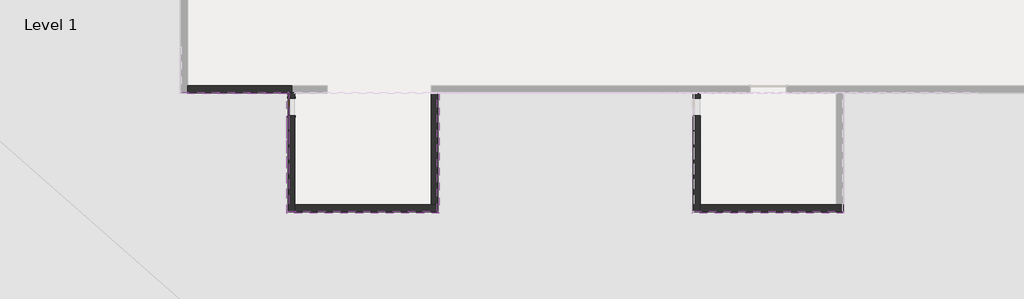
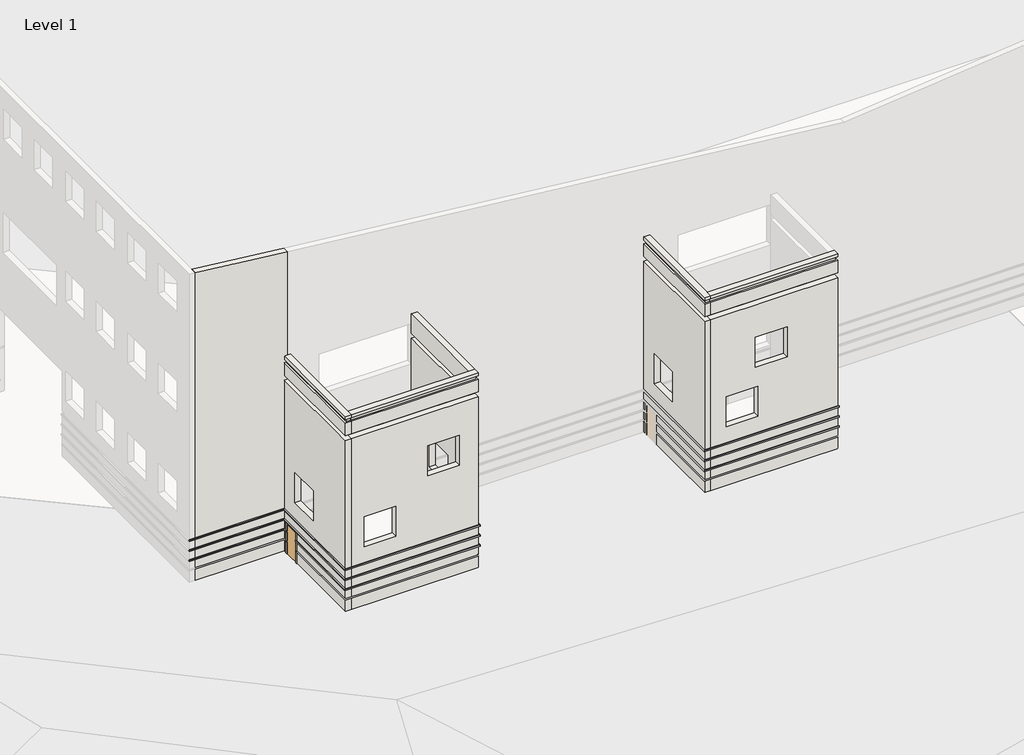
# One storey, part 1 of 6: 15 proxies, 6 walls, 1 door.
"""IFC4 building model written with IfcOpenShell, lengths in millimetres."""

from ifc_helpers import new_model, si_unit, frame, origin, place, context, project, spatial, polyline, outline, extrude, faceted_brep, transform, mapped, element, save
from components import door_632be17d

model = new_model("IFC4")

# Units and contexts
model_context = context("Model", 3, world=origin())
ifc_project = project(units=[si_unit("LENGTHUNIT", "METRE", prefix="MILLI")], contexts=[model_context])

# Site, building, storey
site = spatial("IfcSite", under=ifc_project)
building = spatial("IfcBuilding", under=site)
storey = spatial("IfcBuildingStorey", under=building, Name="Level 1", Elevation=0.0)

# Proxies
placement = place(None, origin())
element("IfcBuildingElementProxy", 1, Name="Reveals", at=placement, inside=storey, context=model_context, shape_type="SweptSolid", body=[
    extrude(outline(polyline([(-12709.8136573, -10625.3504393), (-12617.7386573, -10625.3504393), (-12617.7386573, -15500.5629393), (-12709.8136573, -15592.6379393), (-12709.8136573, -10625.3504393)])), frame((0.0, 0.0, 1625.6), z_axis=(0.0, 0.0, 1.0), x_axis=(1.0, 0.0, 0.0)), (0.0, 0.0, 1.0), 67.7333333),
    extrude(outline(polyline([(-12709.8136573, -9496.6379393), (-12617.7386573, -9404.5629393), (-12617.7386573, -9710.9504393), (-12709.8136573, -9710.9504393), (-12709.8136573, -9496.6379393)])), frame((0.0, 0.0, 1625.6), z_axis=(0.0, 0.0, 1.0), x_axis=(1.0, 0.0, 0.0)), (0.0, 0.0, 1.0), 67.7333333),
])
element("IfcBuildingElementProxy", 2, Name="Reveals", at=placement, inside=storey, context=model_context, shape_type="SweptSolid", body=[
    extrude(outline(polyline([(-12709.8136573, -9496.6379393), (-12617.7386573, -9404.5629393), (-12617.7386573, -15500.5629393), (-12709.8136573, -15592.6379393), (-12709.8136573, -9496.6379393)])), frame((0.0, 0.0, 2235.2), z_axis=(0.0, 0.0, 1.0), x_axis=(1.0, 0.0, 0.0)), (0.0, 0.0, 1.0), 67.7333333),
])
element("IfcBuildingElementProxy", 3, Name="Reveals", at=placement, inside=storey, context=model_context, shape_type="SweptSolid", body=[
    extrude(outline(polyline([(-12709.8136573, -9496.6379393), (-12617.7386573, -9404.5629393), (-12617.7386573, -15500.5629393), (-12709.8136573, -15592.6379393), (-12709.8136573, -9496.6379393)])), frame((0.0, 0.0, 2844.8), z_axis=(0.0, 0.0, 1.0), x_axis=(1.0, 0.0, 0.0)), (0.0, 0.0, 1.0), 67.7333333),
])
element("IfcBuildingElementProxy", 4, Name="Reveals", at=placement, inside=storey, context=model_context, shape_type="SweptSolid", body=[
    extrude(outline(polyline([(-12709.8136573, -15592.6379393), (-12617.7386573, -15500.5629393), (-5000.9136573, -15500.5629393), (-4908.8386573, -15592.6379393), (-12709.8136573, -15592.6379393)])), frame((0.0, 0.0, 1625.6), z_axis=(0.0, 0.0, 1.0), x_axis=(1.0, 0.0, 0.0)), (0.0, 0.0, 1.0), 67.7333333),
])
element("IfcBuildingElementProxy", 5, Name="Reveals", at=placement, inside=storey, context=model_context, shape_type="SweptSolid", body=[
    extrude(outline(polyline([(-12709.8136573, -15592.6379393), (-12617.7386573, -15500.5629393), (-5000.9136573, -15500.5629393), (-4908.8386573, -15592.6379393), (-12709.8136573, -15592.6379393)])), frame((0.0, 0.0, 2235.2), z_axis=(0.0, 0.0, 1.0), x_axis=(1.0, 0.0, 0.0)), (0.0, 0.0, 1.0), 67.7333333),
])
element("IfcBuildingElementProxy", 6, Name="Reveals", at=placement, inside=storey, context=model_context, shape_type="SweptSolid", body=[
    extrude(outline(polyline([(-12709.8136573, -15592.6379393), (-12617.7386573, -15500.5629393), (-5000.9136573, -15500.5629393), (-4908.8386573, -15592.6379393), (-12709.8136573, -15592.6379393)])), frame((0.0, 0.0, 2844.8), z_axis=(0.0, 0.0, 1.0), x_axis=(1.0, 0.0, 0.0)), (0.0, 0.0, 1.0), 67.7333333),
])
element("IfcBuildingElementProxy", 7, Name="Reveals", at=placement, inside=storey, context=model_context, shape_type="SweptSolid", body=[
    extrude(outline(polyline([(-4908.8386573, -15592.6379393), (-5000.9136573, -15500.5629393), (-5000.9136573, -9429.9629393), (-4908.8386573, -9429.9629393), (-4908.8386573, -15592.6379393)])), frame((0.0, 0.0, 1625.6), z_axis=(0.0, 0.0, 1.0), x_axis=(1.0, 0.0, 0.0)), (0.0, 0.0, 1.0), 67.7333333),
])
element("IfcBuildingElementProxy", 8, Name="Reveals", at=placement, inside=storey, context=model_context, shape_type="SweptSolid", body=[
    extrude(outline(polyline([(-4908.8386573, -15592.6379393), (-5000.9136573, -15500.5629393), (-5000.9136573, -9429.9629393), (-4908.8386573, -9429.9629393), (-4908.8386573, -15592.6379393)])), frame((0.0, 0.0, 2235.2), z_axis=(0.0, 0.0, 1.0), x_axis=(1.0, 0.0, 0.0)), (0.0, 0.0, 1.0), 67.7333333),
])
element("IfcBuildingElementProxy", 9, Name="Reveals", at=placement, inside=storey, context=model_context, shape_type="SweptSolid", body=[
    extrude(outline(polyline([(-4908.8386573, -15592.6379393), (-5000.9136573, -15500.5629393), (-5000.9136573, -9429.9629393), (-4908.8386573, -9429.9629393), (-4908.8386573, -15592.6379393)])), frame((0.0, 0.0, 2844.8), z_axis=(0.0, 0.0, 1.0), x_axis=(1.0, 0.0, 0.0)), (0.0, 0.0, 1.0), 67.7333333),
])
element("IfcBuildingElementProxy", 10, Name="Reveals", at=placement, inside=storey, context=model_context, shape_type="SweptSolid", body=[
    extrude(outline(polyline([(8016.5863427, -15592.6379393), (8108.6613427, -15500.5629393), (15725.4863427, -15500.5629393), (15817.5613427, -15592.6379393), (8016.5863427, -15592.6379393)])), frame((0.0, 0.0, 1625.6), z_axis=(0.0, 0.0, 1.0), x_axis=(1.0, 0.0, 0.0)), (0.0, 0.0, 1.0), 67.7333333),
])
element("IfcBuildingElementProxy", 11, Name="Reveals", at=placement, inside=storey, context=model_context, shape_type="SweptSolid", body=[
    extrude(outline(polyline([(8016.5863427, -15592.6379393), (8108.6613427, -15500.5629393), (15725.4863427, -15500.5629393), (15817.5613427, -15592.6379393), (8016.5863427, -15592.6379393)])), frame((0.0, 0.0, 2235.2), z_axis=(0.0, 0.0, 1.0), x_axis=(1.0, 0.0, 0.0)), (0.0, 0.0, 1.0), 67.7333333),
])
element("IfcBuildingElementProxy", 12, Name="Reveals", at=placement, inside=storey, context=model_context, shape_type="SweptSolid", body=[
    extrude(outline(polyline([(8016.5863427, -15592.6379393), (8108.6613427, -15500.5629393), (15725.4863427, -15500.5629393), (15817.5613427, -15592.6379393), (8016.5863427, -15592.6379393)])), frame((0.0, 0.0, 2844.8), z_axis=(0.0, 0.0, 1.0), x_axis=(1.0, 0.0, 0.0)), (0.0, 0.0, 1.0), 67.7333333),
])
element("IfcBuildingElementProxy", 13, Name="Reveals", at=placement, inside=storey, context=model_context, shape_type="SweptSolid", body=[
    extrude(outline(polyline([(-12617.7386573, -9404.5629393), (-12709.8136573, -9496.6379393), (-18196.2136573, -9496.6379393), (-18104.1386573, -9404.5629393), (-12617.7386573, -9404.5629393)])), frame((0.0, 0.0, 1625.6), z_axis=(0.0, 0.0, 1.0), x_axis=(1.0, 0.0, 0.0)), (0.0, 0.0, 1.0), 67.7333333),
])
element("IfcBuildingElementProxy", 14, Name="Reveals", at=placement, inside=storey, context=model_context, shape_type="SweptSolid", body=[
    extrude(outline(polyline([(-12617.7386573, -9404.5629393), (-12709.8136573, -9496.6379393), (-18196.2136573, -9496.6379393), (-18104.1386573, -9404.5629393), (-12617.7386573, -9404.5629393)])), frame((0.0, 0.0, 2235.2), z_axis=(0.0, 0.0, 1.0), x_axis=(1.0, 0.0, 0.0)), (0.0, 0.0, 1.0), 67.7333333),
])
element("IfcBuildingElementProxy", 15, Name="Reveals", at=placement, inside=storey, context=model_context, shape_type="SweptSolid", body=[
    extrude(outline(polyline([(-12617.7386573, -9404.5629393), (-12709.8136573, -9496.6379393), (-18196.2136573, -9496.6379393), (-18104.1386573, -9404.5629393), (-12617.7386573, -9404.5629393)])), frame((0.0, 0.0, 2844.8), z_axis=(0.0, 0.0, 1.0), x_axis=(1.0, 0.0, 0.0)), (0.0, 0.0, 1.0), 67.7333333),
])

# Door
door_shape = door_632be17d(model_context)
element("IfcDoor", 16, ObjectType="Single-Flush : 36\" x 84\"", at=placement, inside=storey, context=model_context, shape_type="MappedRepresentation", body=[
    mapped(door_shape, transform((-12466.9261573, -10168.1504393, 0.0), x_axis=(0.0, 1.0, 0.0), y_axis=(-1.0, 0.0, 0.0), z_axis=(0.0, 0.0, 1.0))),
])

# Walls
element("IfcWall", 17, ObjectType="Exterior - Brick and CMU on MTL. Stud", at=placement, inside=storey, context=model_context, shape_type="Brep", body=[
    faceted_brep([(-12643.1386573, -15525.9629393, 12192.0), (-12643.1386573, -9429.9629393, 12192.0), (-12643.1386573, -9429.9629393, 11988.8), (-12643.1386573, -15525.9629393, 11988.8), (-12643.1386573, -15525.9629393, 11785.6), (-12643.1386573, -9429.9629393, 11785.6), (-12643.1386573, -9429.9629393, 11017.5344776), (-12643.1386573, -15525.9629393, 11017.5344776), (-12290.7136573, -9429.9629393, 12192.0), (-12290.7136573, -15173.5379393, 12192.0), (-12290.7136573, -15525.9629393, 12192.0), (-12290.7136573, -15525.9629393, 11988.8), (-12290.7136573, -15433.8879393, 11988.8), (-12290.7136573, -15433.8879393, 11785.6), (-12290.7136573, -15525.9629393, 11785.6), (-12290.7136573, -15525.9629393, 11017.5344776), (-12290.7136573, -15173.5379393, 11017.5344776), (-12290.7136573, -9429.9629393, 11017.5344776), (-12551.0636573, -9429.9629393, 11785.6), (-12551.0636573, -9429.9629393, 11988.8), (-12551.0636573, -15433.8879393, 11988.8), (-12551.0636573, -15433.8879393, 11785.6)], [[[0, 1, 2, 3]], [[4, 5, 6, 7]], [[8, 9, 10, 11, 12, 13, 14, 15, 16, 17]], [[1, 0, 10, 9, 8]], [[10, 0, 3, 11]], [[14, 4, 7, 15]], [[1, 8, 17, 6, 5, 18, 19, 2]], [[19, 20, 12, 11, 3, 2]], [[20, 19, 18, 21]], [[21, 18, 5, 4, 14, 13]], [[20, 21, 13, 12]], [[7, 6, 17, 16, 15]]]),
    faceted_brep([(-12643.1386573, -9429.9629393, 0.0), (-12643.1386573, -9710.9504393, 0.0), (-12643.1386573, -9710.9504393, 1016.0), (-12643.1386573, -9429.9629393, 1016.0), (-12643.1386573, -10625.3504393, 0.0), (-12643.1386573, -15525.9629393, 0.0), (-12643.1386573, -15525.9629393, 1016.0), (-12643.1386573, -10625.3504393, 1016.0), (-12643.1386573, -9710.9504393, 2133.6), (-12643.1386573, -10625.3504393, 2133.6), (-12643.1386573, -10625.3504393, 1693.3333333), (-12643.1386573, -15525.9629393, 1693.3333333), (-12643.1386573, -15525.9629393, 2235.2), (-12643.1386573, -9429.9629393, 2235.2), (-12643.1386573, -9429.9629393, 1693.3333333), (-12643.1386573, -9710.9504393, 1693.3333333), (-12643.1386573, -10625.3504393, 1085.85), (-12643.1386573, -15525.9629393, 1085.85), (-12643.1386573, -15525.9629393, 1625.6), (-12643.1386573, -10625.3504393, 1625.6), (-12643.1386573, -9429.9629393, 1085.85), (-12643.1386573, -9710.9504393, 1085.85), (-12643.1386573, -9710.9504393, 1625.6), (-12643.1386573, -9429.9629393, 1625.6), (-12643.1386573, -15525.9629393, 2844.8), (-12643.1386573, -9429.9629393, 2844.8), (-12643.1386573, -9429.9629393, 2302.9333333), (-12643.1386573, -15525.9629393, 2302.9333333), (-12643.1386573, -9429.9629393, 2912.5333333), (-12643.1386573, -15525.9629393, 2912.5333333), (-12643.1386573, -15525.9629393, 10712.7344776), (-12643.1386573, -9429.9629393, 10712.7344776), (-12643.1386573, -10472.9504393, 3875.2335849), (-12643.1386573, -10472.9504393, 5704.0335849), (-12643.1386573, -12301.7504393, 5704.0335849), (-12643.1386573, -12301.7504393, 3875.2335849), (-12290.7136573, -9710.9504393, 0.0), (-12290.7136573, -9429.9629393, 0.0), (-12290.7136573, -9429.9629393, 304.8), (-12290.7136573, -9429.9629393, 1016.0), (-12290.7136573, -9429.9629393, 1085.85), (-12290.7136573, -9429.9629393, 1625.6), (-12290.7136573, -9429.9629393, 1693.3333333), (-12290.7136573, -9429.9629393, 2235.2), (-12290.7136573, -9429.9629393, 2302.9333333), (-12290.7136573, -9429.9629393, 2844.8), (-12290.7136573, -9429.9629393, 2912.5333333), (-12290.7136573, -9429.9629393, 10712.7344776), (-12290.7136573, -15173.5379393, 10712.7344776), (-12290.7136573, -15525.9629393, 10712.7344776), (-12290.7136573, -15525.9629393, 2912.5333333), (-12290.7136573, -15500.5629393, 2912.5333333), (-12290.7136573, -15500.5629393, 2844.8), (-12290.7136573, -15525.9629393, 2844.8), (-12290.7136573, -15525.9629393, 2302.9333333), (-12290.7136573, -15500.5629393, 2302.9333333), (-12290.7136573, -15500.5629393, 2235.2), (-12290.7136573, -15525.9629393, 2235.2), (-12290.7136573, -15525.9629393, 1693.3333333), (-12290.7136573, -15500.5629393, 1693.3333333), (-12290.7136573, -15500.5629393, 1625.6), (-12290.7136573, -15525.9629393, 1625.6), (-12290.7136573, -15525.9629393, 1085.85), (-12290.7136573, -15433.8879393, 1085.85), (-12290.7136573, -15433.8879393, 1016.0), (-12290.7136573, -15525.9629393, 1016.0), (-12290.7136573, -15525.9629393, 0.0), (-12290.7136573, -15173.5379393, 0.0), (-12290.7136573, -10625.3504393, 0.0), (-12290.7136573, -10625.3504393, 2133.6), (-12290.7136573, -9710.9504393, 2133.6), (-12290.7136573, -10472.9504393, 5704.0335849), (-12290.7136573, -10472.9504393, 3875.2335849), (-12290.7136573, -12301.7504393, 3875.2335849), (-12290.7136573, -12301.7504393, 5704.0335849), (-12551.0636573, -15525.9629393, 0.0), (-12551.0636573, -10625.3504393, 0.0), (-12551.0636573, -9429.9629393, 0.0), (-12466.9261573, -9429.9629393, 0.0), (-12551.0636573, -9710.9504393, 0.0), (-12551.0636573, -9429.9629393, 1016.0), (-12551.0636573, -9429.9629393, 1085.85), (-12617.7386573, -9429.9629393, 1625.6), (-12617.7386573, -9429.9629393, 1693.3333333), (-12617.7386573, -9429.9629393, 2235.2), (-12617.7386573, -9429.9629393, 2302.9333333), (-12617.7386573, -9429.9629393, 2844.8), (-12617.7386573, -9429.9629393, 2912.5333333), (-12617.7386573, -9710.9504393, 1693.3333333), (-12617.7386573, -9710.9504393, 1625.6), (-12551.0636573, -9710.9504393, 1085.85), (-12551.0636573, -9710.9504393, 1016.0), (-12551.0636573, -10625.3504393, 1016.0), (-12551.0636573, -10625.3504393, 1085.85), (-12617.7386573, -10625.3504393, 1625.6), (-12617.7386573, -10625.3504393, 1693.3333333), (-12551.0636573, -15433.8879393, 1085.85), (-12551.0636573, -15433.8879393, 1016.0), (-12617.7386573, -15500.5629393, 2844.8), (-12617.7386573, -15500.5629393, 2912.5333333), (-12617.7386573, -15500.5629393, 2235.2), (-12617.7386573, -15500.5629393, 2302.9333333), (-12617.7386573, -15500.5629393, 1693.3333333), (-12617.7386573, -15500.5629393, 1625.6)], [[[0, 1, 2, 3]], [[4, 5, 6, 7]], [[8, 9, 10, 11, 12, 13, 14, 15]], [[16, 17, 18, 19]], [[20, 21, 22, 23]], [[24, 25, 26, 27]], [[28, 29, 30, 31], [32, 33, 34, 35]], [[36, 37, 38, 39, 40, 41, 42, 43, 44, 45, 46, 47, 48, 49, 50, 51, 52, 53, 54, 55, 56, 57, 58, 59, 60, 61, 62, 63, 64, 65, 66, 67, 68, 69, 70], [71, 72, 73, 74]], [[66, 75, 76, 68, 67]], [[77, 78, 37, 36, 79]], [[0, 77, 79, 1]], [[75, 5, 4, 76]], [[75, 66, 65, 6, 5]], [[17, 62, 61, 18]], [[53, 24, 27, 54]], [[29, 50, 49, 30]], [[57, 12, 11, 58]], [[37, 78, 77, 0, 3, 80, 81, 20, 23, 82, 83, 14, 13, 84, 85, 26, 25, 86, 87, 28, 31, 47, 46, 45, 44, 43, 42, 41, 40, 39, 38]], [[70, 8, 15, 88, 89, 22, 21, 90, 91, 2, 1, 79, 36]], [[8, 70, 69, 9]], [[9, 69, 68, 76, 4, 7, 92, 93, 16, 19, 94, 95, 10]], [[72, 71, 33, 32]], [[73, 72, 32, 35]], [[74, 73, 35, 34]], [[71, 74, 34, 33]], [[96, 93, 92, 97]], [[97, 92, 7, 6, 65, 64]], [[93, 96, 63, 62, 17, 16]], [[96, 97, 64, 63]], [[91, 80, 3, 2]], [[81, 90, 21, 20]], [[90, 81, 80, 91]], [[52, 98, 86, 25, 24, 53]], [[87, 99, 51, 50, 29, 28]], [[98, 99, 87, 86]], [[99, 98, 52, 51]], [[56, 100, 84, 13, 12, 57]], [[85, 101, 55, 54, 27, 26]], [[100, 101, 85, 84]], [[101, 100, 56, 55]], [[102, 95, 94, 103]], [[103, 94, 19, 18, 61, 60]], [[95, 102, 59, 58, 11, 10]], [[102, 103, 60, 59]], [[89, 82, 23, 22]], [[83, 88, 15, 14]], [[88, 83, 82, 89]], [[31, 30, 49, 48, 47]]]),
])
element("IfcWall", 18, ObjectType="Exterior - Brick and CMU on MTL. Stud", at=placement, inside=storey, context=model_context, shape_type="Brep", body=[
    faceted_brep([(-4975.5136573, -15525.9629393, 12192.0), (-12290.7136573, -15525.9629393, 12192.0), (-12290.7136573, -15525.9629393, 11988.8), (-4975.5136573, -15525.9629393, 11988.8), (-4975.5136573, -15525.9629393, 11785.6), (-12290.7136573, -15525.9629393, 11785.6), (-12290.7136573, -15525.9629393, 11017.5344776), (-4975.5136573, -15525.9629393, 11017.5344776), (-12290.7136573, -15173.5379393, 12192.0), (-5327.9386573, -15173.5379393, 12192.0), (-4975.5136573, -15173.5379393, 12192.0), (-4975.5136573, -15173.5379393, 11988.8), (-5067.5886573, -15173.5379393, 11988.8), (-5067.5886573, -15173.5379393, 11785.6), (-4975.5136573, -15173.5379393, 11785.6), (-4975.5136573, -15173.5379393, 11017.5344776), (-5327.9386573, -15173.5379393, 11017.5344776), (-12290.7136573, -15173.5379393, 11017.5344776), (-12290.7136573, -15433.8879393, 11785.6), (-12290.7136573, -15433.8879393, 11988.8), (-5067.5886573, -15433.8879393, 11988.8), (-5067.5886573, -15433.8879393, 11785.6)], [[[0, 1, 2, 3]], [[4, 5, 6, 7]], [[8, 9, 10, 11, 12, 13, 14, 15, 16, 17]], [[1, 0, 10, 9, 8]], [[10, 0, 3, 11]], [[14, 4, 7, 15]], [[1, 8, 17, 6, 5, 18, 19, 2]], [[19, 20, 12, 11, 3, 2]], [[13, 21, 18, 5, 4, 14]], [[21, 20, 19, 18]], [[20, 21, 13, 12]], [[7, 6, 17, 16, 15]]]),
    faceted_brep([(-12290.7136573, -15525.9629393, 0.0), (-4975.5136573, -15525.9629393, 0.0), (-4975.5136573, -15525.9629393, 1016.0), (-12290.7136573, -15525.9629393, 1016.0), (-12290.7136573, -15525.9629393, 1085.85), (-4975.5136573, -15525.9629393, 1085.85), (-4975.5136573, -15525.9629393, 1625.6), (-12290.7136573, -15525.9629393, 1625.6), (-4975.5136573, -15525.9629393, 2844.8), (-12290.7136573, -15525.9629393, 2844.8), (-12290.7136573, -15525.9629393, 2302.9333333), (-4975.5136573, -15525.9629393, 2302.9333333), (-12290.7136573, -15525.9629393, 2912.5333333), (-4975.5136573, -15525.9629393, 2912.5333333), (-4975.5136573, -15525.9629393, 10712.7344776), (-12290.7136573, -15525.9629393, 10712.7344776), (-11552.5261573, -15525.9629393, 3875.2335849), (-11552.5261573, -15525.9629393, 5704.0335849), (-9723.7261573, -15525.9629393, 5704.0335849), (-9723.7261573, -15525.9629393, 3875.2335849), (-7894.9261573, -15525.9629393, 6923.2335849), (-7894.9261573, -15525.9629393, 8752.0335849), (-6066.1261573, -15525.9629393, 8752.0335849), (-6066.1261573, -15525.9629393, 6923.2335849), (-4975.5136573, -15525.9629393, 2235.2), (-12290.7136573, -15525.9629393, 2235.2), (-12290.7136573, -15525.9629393, 1693.3333333), (-4975.5136573, -15525.9629393, 1693.3333333), (-4975.5136573, -15173.5379393, 0.0), (-5327.9386573, -15173.5379393, 0.0), (-12290.7136573, -15173.5379393, 0.0), (-12290.7136573, -15173.5379393, 10712.7344776), (-5327.9386573, -15173.5379393, 10712.7344776), (-4975.5136573, -15173.5379393, 10712.7344776), (-4975.5136573, -15173.5379393, 2912.5333333), (-5000.9136573, -15173.5379393, 2912.5333333), (-5000.9136573, -15173.5379393, 2844.8), (-4975.5136573, -15173.5379393, 2844.8), (-4975.5136573, -15173.5379393, 2302.9333333), (-5000.9136573, -15173.5379393, 2302.9333333), (-5000.9136573, -15173.5379393, 2235.2), (-4975.5136573, -15173.5379393, 2235.2), (-4975.5136573, -15173.5379393, 1693.3333333), (-5000.9136573, -15173.5379393, 1693.3333333), (-5000.9136573, -15173.5379393, 1625.6), (-4975.5136573, -15173.5379393, 1625.6), (-4975.5136573, -15173.5379393, 1085.85), (-5067.5886573, -15173.5379393, 1085.85), (-5067.5886573, -15173.5379393, 1016.0), (-4975.5136573, -15173.5379393, 1016.0), (-11552.5261573, -15173.5379393, 5704.0335849), (-11552.5261573, -15173.5379393, 3875.2335849), (-9723.7261573, -15173.5379393, 3875.2335849), (-9723.7261573, -15173.5379393, 5704.0335849), (-7894.9261573, -15173.5379393, 8752.0335849), (-7894.9261573, -15173.5379393, 6923.2335849), (-6066.1261573, -15173.5379393, 6923.2335849), (-6066.1261573, -15173.5379393, 8752.0335849), (-4975.5136573, -15433.8879393, 0.0), (-12290.7136573, -15433.8879393, 0.0), (-12290.7136573, -15433.8879393, 1016.0), (-12290.7136573, -15433.8879393, 1085.85), (-12290.7136573, -15500.5629393, 1625.6), (-12290.7136573, -15500.5629393, 1693.3333333), (-12290.7136573, -15500.5629393, 2235.2), (-12290.7136573, -15500.5629393, 2302.9333333), (-12290.7136573, -15500.5629393, 2844.8), (-12290.7136573, -15500.5629393, 2912.5333333), (-5067.5886573, -15433.8879393, 1016.0), (-5067.5886573, -15433.8879393, 1085.85), (-5000.9136573, -15500.5629393, 2844.8), (-5000.9136573, -15500.5629393, 2912.5333333), (-5000.9136573, -15500.5629393, 2235.2), (-5000.9136573, -15500.5629393, 2302.9333333), (-5000.9136573, -15500.5629393, 1625.6), (-5000.9136573, -15500.5629393, 1693.3333333)], [[[0, 1, 2, 3]], [[4, 5, 6, 7]], [[8, 9, 10, 11]], [[12, 13, 14, 15], [16, 17, 18, 19], [20, 21, 22, 23]], [[24, 25, 26, 27]], [[28, 29, 30, 31, 32, 33, 34, 35, 36, 37, 38, 39, 40, 41, 42, 43, 44, 45, 46, 47, 48, 49], [50, 51, 52, 53], [54, 55, 56, 57]], [[30, 29, 28, 58, 59]], [[1, 0, 59, 58]], [[58, 28, 49, 2, 1]], [[5, 46, 45, 6]], [[37, 8, 11, 38]], [[13, 34, 33, 14]], [[41, 24, 27, 42]], [[30, 59, 0, 3, 60, 61, 4, 7, 62, 63, 26, 25, 64, 65, 10, 9, 66, 67, 12, 15, 31]], [[51, 50, 17, 16]], [[52, 51, 16, 19]], [[53, 52, 19, 18]], [[50, 53, 18, 17]], [[55, 54, 21, 20]], [[56, 55, 20, 23]], [[57, 56, 23, 22]], [[54, 57, 22, 21]], [[48, 68, 60, 3, 2, 49]], [[61, 69, 47, 46, 5, 4]], [[68, 69, 61, 60]], [[69, 68, 48, 47]], [[36, 70, 66, 9, 8, 37]], [[67, 71, 35, 34, 13, 12]], [[70, 71, 67, 66]], [[71, 70, 36, 35]], [[40, 72, 64, 25, 24, 41]], [[65, 73, 39, 38, 11, 10]], [[72, 73, 65, 64]], [[73, 72, 40, 39]], [[44, 74, 62, 7, 6, 45]], [[63, 75, 43, 42, 27, 26]], [[74, 75, 63, 62]], [[75, 74, 44, 43]], [[15, 14, 33, 32, 31]]]),
])
element("IfcWall", 19, ObjectType="Exterior - Brick and CMU on MTL. Stud", at=placement, inside=storey, context=model_context, shape_type="Brep", body=[
    faceted_brep([(-4975.5136573, -9429.9629393, 12192.0), (-4975.5136573, -15173.5379393, 12192.0), (-4975.5136573, -15173.5379393, 11988.8), (-4975.5136573, -9429.9629393, 11988.8), (-4975.5136573, -9429.9629393, 11785.6), (-4975.5136573, -15173.5379393, 11785.6), (-4975.5136573, -15173.5379393, 11017.5344776), (-4975.5136573, -9429.9629393, 11017.5344776), (-5327.9386573, -15173.5379393, 12192.0), (-5327.9386573, -9429.9629393, 12192.0), (-5327.9386573, -9429.9629393, 11582.4), (-5327.9386573, -9429.9629393, 11017.5344776), (-5327.9386573, -15173.5379393, 11017.5344776), (-5067.5886573, -15173.5379393, 11785.6), (-5067.5886573, -15173.5379393, 11988.8), (-5067.5886573, -9429.9629393, 11988.8), (-5067.5886573, -9429.9629393, 11785.6)], [[[0, 1, 2, 3]], [[4, 5, 6, 7]], [[8, 9, 10, 11, 12]], [[1, 0, 9, 8]], [[1, 8, 12, 6, 5, 13, 14, 2]], [[9, 0, 3, 15, 16, 4, 7, 11, 10]], [[14, 15, 3, 2]], [[16, 13, 5, 4]], [[13, 16, 15, 14]], [[7, 6, 12, 11]]]),
    faceted_brep([(-4975.5136573, -15173.5379393, 0.0), (-4975.5136573, -9429.9629393, 0.0), (-4975.5136573, -9429.9629393, 1016.0), (-4975.5136573, -15173.5379393, 1016.0), (-4975.5136573, -15173.5379393, 1085.85), (-4975.5136573, -9429.9629393, 1085.85), (-4975.5136573, -9429.9629393, 1625.6), (-4975.5136573, -15173.5379393, 1625.6), (-4975.5136573, -9429.9629393, 2302.9333333), (-4975.5136573, -9429.9629393, 2844.8), (-4975.5136573, -15173.5379393, 2844.8), (-4975.5136573, -15173.5379393, 2302.9333333), (-4975.5136573, -9429.9629393, 1693.3333333), (-4975.5136573, -9429.9629393, 2235.2), (-4975.5136573, -15173.5379393, 2235.2), (-4975.5136573, -15173.5379393, 1693.3333333), (-4975.5136573, -15173.5379393, 10712.7344776), (-4975.5136573, -15173.5379393, 2912.5333333), (-4975.5136573, -9429.9629393, 2912.5333333), (-4975.5136573, -9429.9629393, 10712.7344776), (-4975.5136573, -11235.8448697, 5791.2), (-4975.5136573, -11235.8448697, 3962.4), (-4975.5136573, -13064.6448697, 3962.4), (-4975.5136573, -13064.6448697, 5791.2), (-5327.9386573, -9429.9629393, 0.0), (-5327.9386573, -15173.5379393, 0.0), (-5327.9386573, -15173.5379393, 10712.7344776), (-5327.9386573, -9429.9629393, 10712.7344776), (-5327.9386573, -9429.9629393, 9144.0), (-5327.9386573, -9429.9629393, 5486.4), (-5327.9386573, -9429.9629393, 3048.0), (-5327.9386573, -9429.9629393, 2912.5333333), (-5327.9386573, -9496.6379393, 2912.5333333), (-5327.9386573, -9496.6379393, 2844.8), (-5327.9386573, -9429.9629393, 2844.8), (-5327.9386573, -9429.9629393, 2438.4), (-5327.9386573, -9429.9629393, 2302.9333333), (-5327.9386573, -9496.6379393, 2302.9333333), (-5327.9386573, -9496.6379393, 2235.2), (-5327.9386573, -9429.9629393, 2235.2), (-5327.9386573, -9429.9629393, 1693.3333333), (-5327.9386573, -9496.6379393, 1693.3333333), (-5327.9386573, -9496.6379393, 1625.6), (-5327.9386573, -9429.9629393, 1625.6), (-5327.9386573, -9429.9629393, 1085.85), (-5327.9386573, -9464.8879393, 1041.4), (-5327.9386573, -9464.8879393, 1016.0), (-5327.9386573, -9429.9629393, 1016.0), (-5327.9386573, -11235.8448697, 3962.4), (-5327.9386573, -11235.8448697, 5791.2), (-5327.9386573, -13064.6448697, 5791.2), (-5327.9386573, -13064.6448697, 3962.4), (-5067.5886573, -9429.9629393, 0.0), (-5067.5886573, -15173.5379393, 0.0), (-5067.5886573, -15173.5379393, 1016.0), (-5067.5886573, -15173.5379393, 1085.85), (-5000.9136573, -15173.5379393, 1625.6), (-5000.9136573, -15173.5379393, 1693.3333333), (-5000.9136573, -15173.5379393, 2235.2), (-5000.9136573, -15173.5379393, 2302.9333333), (-5000.9136573, -15173.5379393, 2844.8), (-5000.9136573, -15173.5379393, 2912.5333333), (-5067.5886573, -9429.9629393, 1016.0), (-5067.5886573, -9429.9629393, 1085.85), (-5067.5886573, -9464.8879393, 1016.0), (-5067.5886573, -9464.8879393, 1041.4), (-5000.9136573, -9496.6379393, 2844.8), (-5000.9136573, -9496.6379393, 2912.5333333), (-5000.9136573, -9496.6379393, 2235.2), (-5000.9136573, -9496.6379393, 2302.9333333), (-5000.9136573, -9496.6379393, 1625.6), (-5000.9136573, -9496.6379393, 1693.3333333)], [[[0, 1, 2, 3]], [[4, 5, 6, 7]], [[8, 9, 10, 11]], [[12, 13, 14, 15]], [[16, 17, 18, 19], [20, 21, 22, 23]], [[24, 25, 26, 27, 28, 29, 30, 31, 32, 33, 34, 35, 36, 37, 38, 39, 40, 41, 42, 43, 44, 45, 46, 47], [48, 49, 50, 51]], [[25, 24, 52, 53]], [[1, 0, 53, 52]], [[25, 53, 0, 3, 54, 55, 4, 7, 56, 57, 15, 14, 58, 59, 11, 10, 60, 61, 17, 16, 26]], [[21, 20, 49, 48]], [[22, 21, 48, 51]], [[23, 22, 51, 50]], [[20, 23, 50, 49]], [[52, 24, 47, 62, 2, 1]], [[5, 63, 44, 43, 6]], [[9, 8, 36, 35, 34]], [[13, 12, 40, 39]], [[19, 18, 31, 30, 29, 28, 27]], [[54, 3, 2, 62, 47, 46, 64]], [[55, 63, 5, 4]], [[63, 55, 54, 64, 65]], [[60, 10, 9, 34, 33, 66]], [[17, 61, 67, 32, 31, 18]], [[61, 60, 66, 67]], [[58, 14, 13, 39, 38, 68]], [[11, 59, 69, 37, 36, 8]], [[59, 58, 68, 69]], [[56, 7, 6, 43, 42, 70]], [[15, 57, 71, 41, 40, 12]], [[57, 56, 70, 71]], [[16, 19, 27, 26]], [[70, 42, 41, 71]], [[68, 38, 37, 69]], [[32, 67, 66, 33]], [[65, 45, 44, 63]], [[64, 46, 45, 65]]]),
])
element("IfcWall", 20, ObjectType="Exterior - Brick and CMU on MTL. Stud", at=placement, inside=storey, context=model_context, shape_type="Brep", body=[
    faceted_brep([(8083.2613427, -15525.9629393, 12192.0), (8083.2613427, -9429.9629393, 12192.0), (8083.2613427, -9429.9629393, 11988.8), (8083.2613427, -15525.9629393, 11988.8), (8083.2613427, -15525.9629393, 11785.6), (8083.2613427, -9429.9629393, 11785.6), (8083.2613427, -9429.9629393, 11017.5344776), (8083.2613427, -15525.9629393, 11017.5344776), (8435.6863427, -9429.9629393, 12192.0), (8435.6863427, -15173.5379393, 12192.0), (8435.6863427, -15525.9629393, 12192.0), (8435.6863427, -15525.9629393, 11988.8), (8435.6863427, -15433.8879393, 11988.8), (8435.6863427, -15433.8879393, 11785.6), (8435.6863427, -15525.9629393, 11785.6), (8435.6863427, -15525.9629393, 11017.5344776), (8435.6863427, -15173.5379393, 11017.5344776), (8435.6863427, -9429.9629393, 11017.5344776), (8175.3363427, -9429.9629393, 11785.6), (8175.3363427, -9429.9629393, 11988.8), (8175.3363427, -15433.8879393, 11988.8), (8175.3363427, -15433.8879393, 11785.6)], [[[0, 1, 2, 3]], [[4, 5, 6, 7]], [[8, 9, 10, 11, 12, 13, 14, 15, 16, 17]], [[1, 0, 10, 9, 8]], [[10, 0, 3, 11]], [[14, 4, 7, 15]], [[1, 8, 17, 6, 5, 18, 19, 2]], [[19, 20, 12, 11, 3, 2]], [[20, 19, 18, 21]], [[21, 18, 5, 4, 14, 13]], [[20, 21, 13, 12]], [[7, 6, 17, 16, 15]]]),
    faceted_brep([(8083.2613427, -9429.9629393, 0.0), (8083.2613427, -9710.9504393, 0.0), (8083.2613427, -9710.9504393, 1016.0), (8083.2613427, -9429.9629393, 1016.0), (8083.2613427, -10625.3504393, 0.0), (8083.2613427, -15525.9629393, 0.0), (8083.2613427, -15525.9629393, 1016.0), (8083.2613427, -10625.3504393, 1016.0), (8083.2613427, -9710.9504393, 2133.6), (8083.2613427, -10625.3504393, 2133.6), (8083.2613427, -10625.3504393, 1693.3333333), (8083.2613427, -15525.9629393, 1693.3333333), (8083.2613427, -15525.9629393, 2235.2), (8083.2613427, -9429.9629393, 2235.2), (8083.2613427, -9429.9629393, 1693.3333333), (8083.2613427, -9710.9504393, 1693.3333333), (8083.2613427, -9710.9504393, 1625.6), (8083.2613427, -9429.9629393, 1625.6), (8083.2613427, -9429.9629393, 1085.85), (8083.2613427, -9710.9504393, 1085.85), (8083.2613427, -15525.9629393, 1625.6), (8083.2613427, -10625.3504393, 1625.6), (8083.2613427, -10625.3504393, 1085.85), (8083.2613427, -15525.9629393, 1085.85), (8083.2613427, -9429.9629393, 2302.9333333), (8083.2613427, -15525.9629393, 2302.9333333), (8083.2613427, -15525.9629393, 2844.8), (8083.2613427, -9429.9629393, 2844.8), (8083.2613427, -9429.9629393, 2912.5333333), (8083.2613427, -15525.9629393, 2912.5333333), (8083.2613427, -15525.9629393, 10712.7344776), (8083.2613427, -9429.9629393, 10712.7344776), (8083.2613427, -10472.9504393, 3875.2335849), (8083.2613427, -10472.9504393, 5704.0335849), (8083.2613427, -12301.7504393, 5704.0335849), (8083.2613427, -12301.7504393, 3875.2335849), (8435.6863427, -9710.9504393, 0.0), (8435.6863427, -9429.9629393, 0.0), (8435.6863427, -9429.9629393, 304.8), (8435.6863427, -9429.9629393, 10712.7344776), (8435.6863427, -15173.5379393, 10712.7344776), (8435.6863427, -15525.9629393, 10712.7344776), (8435.6863427, -15525.9629393, 2912.5333333), (8435.6863427, -15500.5629393, 2912.5333333), (8435.6863427, -15500.5629393, 2844.8), (8435.6863427, -15525.9629393, 2844.8), (8435.6863427, -15525.9629393, 2302.9333333), (8435.6863427, -15500.5629393, 2302.9333333), (8435.6863427, -15500.5629393, 2235.2), (8435.6863427, -15525.9629393, 2235.2), (8435.6863427, -15525.9629393, 1693.3333333), (8435.6863427, -15500.5629393, 1693.3333333), (8435.6863427, -15500.5629393, 1625.6), (8435.6863427, -15525.9629393, 1625.6), (8435.6863427, -15525.9629393, 1085.85), (8435.6863427, -15433.8879393, 1085.85), (8435.6863427, -15433.8879393, 1016.0), (8435.6863427, -15525.9629393, 1016.0), (8435.6863427, -15525.9629393, 0.0), (8435.6863427, -15173.5379393, 0.0), (8435.6863427, -10625.3504393, 0.0), (8435.6863427, -10625.3504393, 2133.6), (8435.6863427, -9710.9504393, 2133.6), (8435.6863427, -10472.9504393, 5704.0335849), (8435.6863427, -10472.9504393, 3875.2335849), (8435.6863427, -12301.7504393, 3875.2335849), (8435.6863427, -12301.7504393, 5704.0335849), (8175.3363427, -15525.9629393, 0.0), (8175.3363427, -10625.3504393, 0.0), (8175.3363427, -9429.9629393, 0.0), (8175.3363427, -9710.9504393, 0.0), (8175.3363427, -9429.9629393, 1016.0), (8175.3363427, -9429.9629393, 1085.85), (8108.6613427, -9429.9629393, 1625.6), (8108.6613427, -9429.9629393, 1693.3333333), (8108.6613427, -9429.9629393, 2235.2), (8108.6613427, -9429.9629393, 2302.9333333), (8108.6613427, -9429.9629393, 2844.8), (8108.6613427, -9429.9629393, 2912.5333333), (8108.6613427, -9710.9504393, 1693.3333333), (8108.6613427, -9710.9504393, 1625.6), (8175.3363427, -9710.9504393, 1085.85), (8175.3363427, -9710.9504393, 1016.0), (8175.3363427, -10625.3504393, 1016.0), (8175.3363427, -10625.3504393, 1085.85), (8108.6613427, -10625.3504393, 1625.6), (8108.6613427, -10625.3504393, 1693.3333333), (8108.6613427, -15500.5629393, 1693.3333333), (8108.6613427, -15500.5629393, 1625.6), (8108.6613427, -15500.5629393, 2302.9333333), (8108.6613427, -15500.5629393, 2235.2), (8108.6613427, -15500.5629393, 2912.5333333), (8108.6613427, -15500.5629393, 2844.8), (8175.3363427, -15433.8879393, 1085.85), (8175.3363427, -15433.8879393, 1016.0)], [[[0, 1, 2, 3]], [[4, 5, 6, 7]], [[8, 9, 10, 11, 12, 13, 14, 15]], [[16, 17, 18, 19]], [[20, 21, 22, 23]], [[24, 25, 26, 27]], [[28, 29, 30, 31], [32, 33, 34, 35]], [[36, 37, 38, 39, 40, 41, 42, 43, 44, 45, 46, 47, 48, 49, 50, 51, 52, 53, 54, 55, 56, 57, 58, 59, 60, 61, 62], [63, 64, 65, 66]], [[58, 67, 68, 60, 59]], [[69, 37, 36, 70]], [[0, 69, 70, 1]], [[67, 5, 4, 68]], [[67, 58, 57, 6, 5]], [[53, 20, 23, 54]], [[11, 50, 49, 12]], [[25, 46, 45, 26]], [[29, 42, 41, 30]], [[37, 69, 0, 3, 71, 72, 18, 17, 73, 74, 14, 13, 75, 76, 24, 27, 77, 78, 28, 31, 39, 38]], [[62, 8, 15, 79, 80, 16, 19, 81, 82, 2, 1, 70, 36]], [[8, 62, 61, 9]], [[9, 61, 60, 68, 4, 7, 83, 84, 22, 21, 85, 86, 10]], [[64, 63, 33, 32]], [[65, 64, 32, 35]], [[66, 65, 35, 34]], [[63, 66, 34, 33]], [[87, 86, 85, 88]], [[88, 85, 21, 20, 53, 52]], [[86, 87, 51, 50, 11, 10]], [[87, 88, 52, 51]], [[79, 74, 73, 80]], [[80, 73, 17, 16]], [[74, 79, 15, 14]], [[89, 76, 75, 90]], [[90, 75, 13, 12, 49, 48]], [[76, 89, 47, 46, 25, 24]], [[89, 90, 48, 47]], [[91, 78, 77, 92]], [[92, 77, 27, 26, 45, 44]], [[78, 91, 43, 42, 29, 28]], [[91, 92, 44, 43]], [[93, 84, 83, 94]], [[94, 83, 7, 6, 57, 56]], [[84, 93, 55, 54, 23, 22]], [[93, 94, 56, 55]], [[81, 72, 71, 82]], [[82, 71, 3, 2]], [[72, 81, 19, 18]], [[31, 30, 41, 40, 39]]]),
])
element("IfcWall", 21, ObjectType="Exterior - Brick and CMU on MTL. Stud", at=placement, inside=storey, context=model_context, shape_type="Brep", body=[
    faceted_brep([(15750.8863427, -15525.9629393, 12192.0), (8435.6863427, -15525.9629393, 12192.0), (8435.6863427, -15525.9629393, 11988.8), (15750.8863427, -15525.9629393, 11988.8), (15750.8863427, -15525.9629393, 11785.6), (8435.6863427, -15525.9629393, 11785.6), (8435.6863427, -15525.9629393, 11017.5344776), (15750.8863427, -15525.9629393, 11017.5344776), (8435.6863427, -15173.5379393, 12192.0), (15398.4613427, -15173.5379393, 12192.0), (15750.8863427, -15173.5379393, 12192.0), (15750.8863427, -15173.5379393, 11988.8), (15658.8113427, -15173.5379393, 11988.8), (15658.8113427, -15173.5379393, 11785.6), (15750.8863427, -15173.5379393, 11785.6), (15750.8863427, -15173.5379393, 11017.5344776), (15398.4613427, -15173.5379393, 11017.5344776), (8435.6863427, -15173.5379393, 11017.5344776), (8435.6863427, -15433.8879393, 11785.6), (8435.6863427, -15433.8879393, 11988.8), (15658.8113427, -15433.8879393, 11988.8), (15658.8113427, -15433.8879393, 11785.6)], [[[0, 1, 2, 3]], [[4, 5, 6, 7]], [[8, 9, 10, 11, 12, 13, 14, 15, 16, 17]], [[1, 0, 10, 9, 8]], [[10, 0, 3, 11]], [[14, 4, 7, 15]], [[1, 8, 17, 6, 5, 18, 19, 2]], [[19, 20, 12, 11, 3, 2]], [[13, 21, 18, 5, 4, 14]], [[21, 20, 19, 18]], [[20, 21, 13, 12]], [[7, 6, 17, 16, 15]]]),
    faceted_brep([(8435.6863427, -15525.9629393, 0.0), (15750.8863427, -15525.9629393, 0.0), (15750.8863427, -15525.9629393, 1016.0), (8435.6863427, -15525.9629393, 1016.0), (15750.8863427, -15525.9629393, 1625.6), (8435.6863427, -15525.9629393, 1625.6), (8435.6863427, -15525.9629393, 1085.85), (15750.8863427, -15525.9629393, 1085.85), (8435.6863427, -15525.9629393, 1693.3333333), (15750.8863427, -15525.9629393, 1693.3333333), (15750.8863427, -15525.9629393, 2235.2), (8435.6863427, -15525.9629393, 2235.2), (8435.6863427, -15525.9629393, 2302.9333333), (15750.8863427, -15525.9629393, 2302.9333333), (15750.8863427, -15525.9629393, 2844.8), (8435.6863427, -15525.9629393, 2844.8), (8435.6863427, -15525.9629393, 2912.5333333), (15750.8863427, -15525.9629393, 2912.5333333), (15750.8863427, -15525.9629393, 10712.7344776), (8435.6863427, -15525.9629393, 10712.7344776), (9326.2738427, -15525.9629393, 3875.2335849), (9326.2738427, -15525.9629393, 5704.0335849), (11155.0738427, -15525.9629393, 5704.0335849), (11155.0738427, -15525.9629393, 3875.2335849), (11002.6738427, -15525.9629393, 6923.2335849), (11002.6738427, -15525.9629393, 8752.0335849), (12831.4738427, -15525.9629393, 8752.0335849), (12831.4738427, -15525.9629393, 6923.2335849), (15750.8863427, -15173.5379393, 0.0), (15398.4613427, -15173.5379393, 0.0), (8435.6863427, -15173.5379393, 0.0), (8435.6863427, -15173.5379393, 10712.7344776), (15398.4613427, -15173.5379393, 10712.7344776), (15750.8863427, -15173.5379393, 10712.7344776), (15750.8863427, -15173.5379393, 2912.5333333), (15725.4863427, -15173.5379393, 2912.5333333), (15725.4863427, -15173.5379393, 2844.8), (15750.8863427, -15173.5379393, 2844.8), (15750.8863427, -15173.5379393, 2302.9333333), (15725.4863427, -15173.5379393, 2302.9333333), (15725.4863427, -15173.5379393, 2235.2), (15750.8863427, -15173.5379393, 2235.2), (15750.8863427, -15173.5379393, 1693.3333333), (15725.4863427, -15173.5379393, 1693.3333333), (15725.4863427, -15173.5379393, 1625.6), (15750.8863427, -15173.5379393, 1625.6), (15750.8863427, -15173.5379393, 1085.85), (15658.8113427, -15173.5379393, 1085.85), (15658.8113427, -15173.5379393, 1016.0), (15750.8863427, -15173.5379393, 1016.0), (9326.2738427, -15173.5379393, 5704.0335849), (9326.2738427, -15173.5379393, 3875.2335849), (11155.0738427, -15173.5379393, 3875.2335849), (11155.0738427, -15173.5379393, 5704.0335849), (11002.6738427, -15173.5379393, 8752.0335849), (11002.6738427, -15173.5379393, 6923.2335849), (12831.4738427, -15173.5379393, 6923.2335849), (12831.4738427, -15173.5379393, 8752.0335849), (15750.8863427, -15433.8879393, 0.0), (8435.6863427, -15433.8879393, 0.0), (8435.6863427, -15433.8879393, 1016.0), (8435.6863427, -15433.8879393, 1085.85), (8435.6863427, -15500.5629393, 1625.6), (8435.6863427, -15500.5629393, 1693.3333333), (8435.6863427, -15500.5629393, 2235.2), (8435.6863427, -15500.5629393, 2302.9333333), (8435.6863427, -15500.5629393, 2844.8), (8435.6863427, -15500.5629393, 2912.5333333), (15725.4863427, -15500.5629393, 1625.6), (15725.4863427, -15500.5629393, 1693.3333333), (15725.4863427, -15500.5629393, 2235.2), (15725.4863427, -15500.5629393, 2302.9333333), (15725.4863427, -15500.5629393, 2844.8), (15725.4863427, -15500.5629393, 2912.5333333), (15658.8113427, -15433.8879393, 1016.0), (15658.8113427, -15433.8879393, 1085.85)], [[[0, 1, 2, 3]], [[4, 5, 6, 7]], [[8, 9, 10, 11]], [[12, 13, 14, 15]], [[16, 17, 18, 19], [20, 21, 22, 23], [24, 25, 26, 27]], [[28, 29, 30, 31, 32, 33, 34, 35, 36, 37, 38, 39, 40, 41, 42, 43, 44, 45, 46, 47, 48, 49], [50, 51, 52, 53], [54, 55, 56, 57]], [[30, 29, 28, 58, 59]], [[1, 0, 59, 58]], [[58, 28, 49, 2, 1]], [[45, 4, 7, 46]], [[9, 42, 41, 10]], [[13, 38, 37, 14]], [[17, 34, 33, 18]], [[30, 59, 0, 3, 60, 61, 6, 5, 62, 63, 8, 11, 64, 65, 12, 15, 66, 67, 16, 19, 31]], [[51, 50, 21, 20]], [[52, 51, 20, 23]], [[53, 52, 23, 22]], [[50, 53, 22, 21]], [[55, 54, 25, 24]], [[56, 55, 24, 27]], [[57, 56, 27, 26]], [[54, 57, 26, 25]], [[44, 68, 62, 5, 4, 45]], [[63, 69, 43, 42, 9, 8]], [[68, 69, 63, 62]], [[69, 68, 44, 43]], [[40, 70, 64, 11, 10, 41]], [[65, 71, 39, 38, 13, 12]], [[70, 71, 65, 64]], [[71, 70, 40, 39]], [[36, 72, 66, 15, 14, 37]], [[67, 73, 35, 34, 17, 16]], [[72, 73, 67, 66]], [[73, 72, 36, 35]], [[48, 74, 60, 3, 2, 49]], [[61, 75, 47, 46, 7, 6]], [[74, 75, 61, 60]], [[75, 74, 48, 47]], [[19, 18, 33, 32, 31]]]),
])
element("IfcWall", 22, ObjectType="Exterior - Brick and CMU on MTL. Stud", at=placement, inside=storey, context=model_context, shape_type="Brep", body=[
    faceted_brep([(-17777.1136573, -9077.5379393, 19055.1063791), (-12466.9261573, -9077.5379393, 18496.9831828), (-12466.9261573, -9077.5379393, 304.8), (-17777.1136573, -9077.5379393, 304.8), (-17777.1136573, -9429.9629393, 0.0), (-12643.1386573, -9429.9629393, 0.0), (-12466.9261573, -9429.9629393, 0.0), (-12466.9261573, -9429.9629393, 18496.9831828), (-17777.1136573, -9429.9629393, 19055.1063791), (-17777.1136573, -9429.9629393, 2912.5333333), (-12643.1386573, -9429.9629393, 2912.5333333), (-12617.7386573, -9429.9629393, 2912.5333333), (-12617.7386573, -9429.9629393, 2844.8), (-12643.1386573, -9429.9629393, 2844.8), (-17777.1136573, -9429.9629393, 2844.8), (-17777.1136573, -9429.9629393, 2302.9333333), (-12643.1386573, -9429.9629393, 2302.9333333), (-12617.7386573, -9429.9629393, 2302.9333333), (-12617.7386573, -9429.9629393, 2235.2), (-12643.1386573, -9429.9629393, 2235.2), (-17777.1136573, -9429.9629393, 2235.2), (-17777.1136573, -9429.9629393, 1693.3333333), (-12643.1386573, -9429.9629393, 1693.3333333), (-12617.7386573, -9429.9629393, 1693.3333333), (-12617.7386573, -9429.9629393, 1625.6), (-12643.1386573, -9429.9629393, 1625.6), (-17777.1136573, -9429.9629393, 1625.6), (-17777.1136573, -9429.9629393, 1085.85), (-12643.1386573, -9429.9629393, 1085.85), (-12551.0636573, -9429.9629393, 1085.85), (-12551.0636573, -9429.9629393, 1016.0), (-12643.1386573, -9429.9629393, 1016.0), (-17777.1136573, -9429.9629393, 1016.0), (-12466.9261573, -9337.8879393, 0.0), (-17777.1136573, -9337.8879393, 0.0), (-17777.1136573, -9090.2379393, 0.0), (-12466.9261573, -9090.2379393, 0.0), (-17777.1136573, -9337.8879393, 1016.0), (-17777.1136573, -9337.8879393, 1085.85), (-17777.1136573, -9404.5629393, 1625.6), (-17777.1136573, -9404.5629393, 1693.3333333), (-17777.1136573, -9404.5629393, 2235.2), (-17777.1136573, -9404.5629393, 2302.9333333), (-17777.1136573, -9404.5629393, 2844.8), (-17777.1136573, -9404.5629393, 2912.5333333), (-17777.1136573, -9090.2379393, 304.8), (-12466.9261573, -9090.2379393, 304.8), (-12617.7386573, -9404.5629393, 1693.3333333), (-12617.7386573, -9404.5629393, 1625.6), (-12617.7386573, -9404.5629393, 2302.9333333), (-12617.7386573, -9404.5629393, 2235.2), (-12617.7386573, -9404.5629393, 2912.5333333), (-12617.7386573, -9404.5629393, 2844.8), (-12551.0636573, -9337.8879393, 1085.85), (-12551.0636573, -9337.8879393, 1016.0)], [[[0, 1, 2, 3]], [[4, 5, 6, 7, 8, 9, 10, 11, 12, 13, 14, 15, 16, 17, 18, 19, 20, 21, 22, 23, 24, 25, 26, 27, 28, 29, 30, 31, 32]], [[33, 34, 35, 36]], [[33, 6, 5, 4, 34]], [[34, 4, 32, 37, 38, 27, 26, 39, 40, 21, 20, 41, 42, 15, 14, 43, 44, 9, 8, 0, 3, 45, 35]], [[1, 0, 8, 7]], [[6, 33, 36, 46, 2, 1, 7]], [[40, 47, 23, 22, 21]], [[24, 48, 39, 26, 25]], [[47, 48, 24, 23]], [[48, 47, 40, 39]], [[42, 49, 17, 16, 15]], [[18, 50, 41, 20, 19]], [[49, 50, 18, 17]], [[50, 49, 42, 41]], [[44, 51, 11, 10, 9]], [[12, 52, 43, 14, 13]], [[51, 52, 12, 11]], [[52, 51, 44, 43]], [[38, 53, 29, 28, 27]], [[30, 54, 37, 32, 31]], [[53, 54, 30, 29]], [[54, 53, 38, 37]], [[46, 45, 3, 2]], [[45, 46, 36, 35]]]),
])

save(model, "model.ifc")
